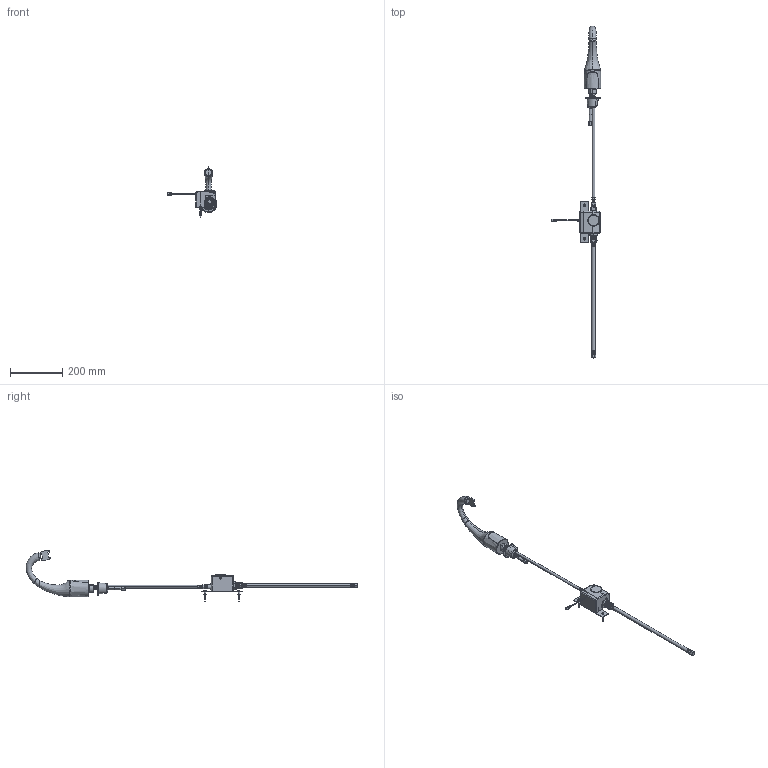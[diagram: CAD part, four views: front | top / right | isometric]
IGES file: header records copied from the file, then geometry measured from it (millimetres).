
Start section:  PTC IGES file: 116-957-ab-1_sw0001.igs
Global section: file name: 116-957-ab-1_sw0001.igs; native system: Pro/ENGINEER by Parametric Technology Corporation; preprocessor: 2011330; author: jrodriguez; organization: Unknown; date: 20120712.110530; units: inch
Bounding box: 189.99 x 1269.85 x 193.5 mm (x, y, z)
Surface area: 206312.7 mm2 (no closed solid volume)
Topology: 0 solids, 0 shells, 1069 faces, 9914 edges, 13793 vertices
Faces by surface type: revolution 674, bspline 395
